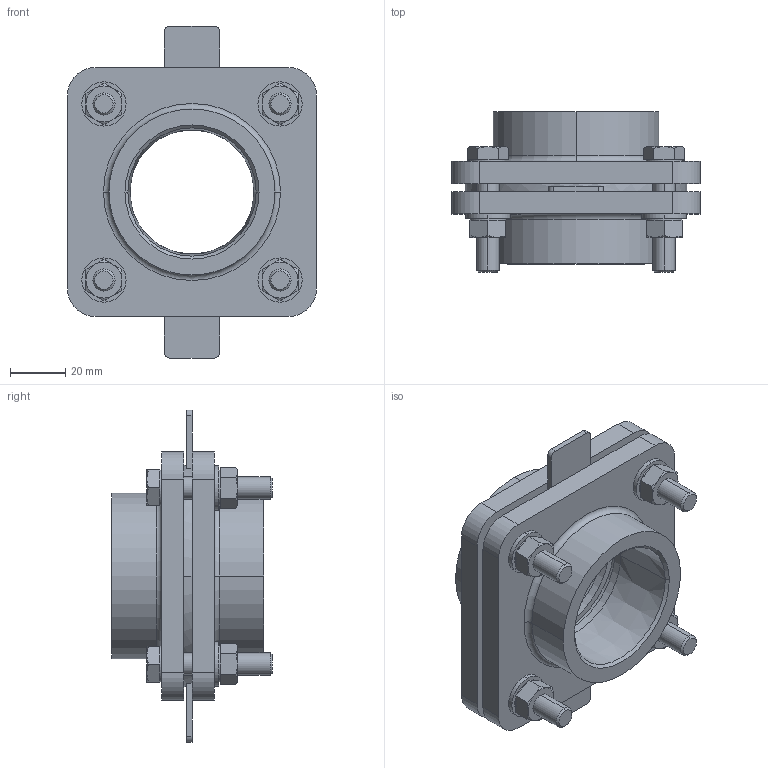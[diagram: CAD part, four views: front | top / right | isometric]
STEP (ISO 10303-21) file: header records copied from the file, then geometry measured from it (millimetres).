
FILE_DESCRIPTION (( 'STEP AP214' ), '1' );
FILE_NAME ('KP_F16-54FF.STEP', '2014-01-20T12:22:06', ( 'robinj' ), ( 'Microsoft' ), 'SwSTEP 2.0', 'SolidWorks 2014', '' );
FILE_SCHEMA (( 'AUTOMOTIVE_DESIGN' ));
Length unit declared in the file: millimetre
Products named in the file (1): KP_F16-54FF
Bounding box: 90 x 58 x 120 mm (x, y, z)
Volume: 166418.3 mm3; surface area: 48698.9 mm2
Topology: 1 solids, 1 shells, 303 faces, 672 edges, 400 vertices
Faces by surface type: plane 147, cylinder 80, cone 64, torus 12
Entity records: 9553 total; most frequent: CARTESIAN_POINT 1920, DIRECTION 1468, ORIENTED_EDGE 1344, EDGE_CURVE 672, AXIS2_PLACEMENT_3D 588, VERTEX_POINT 400, EDGE_LOOP 342, FACE_OUTER_BOUND 303
